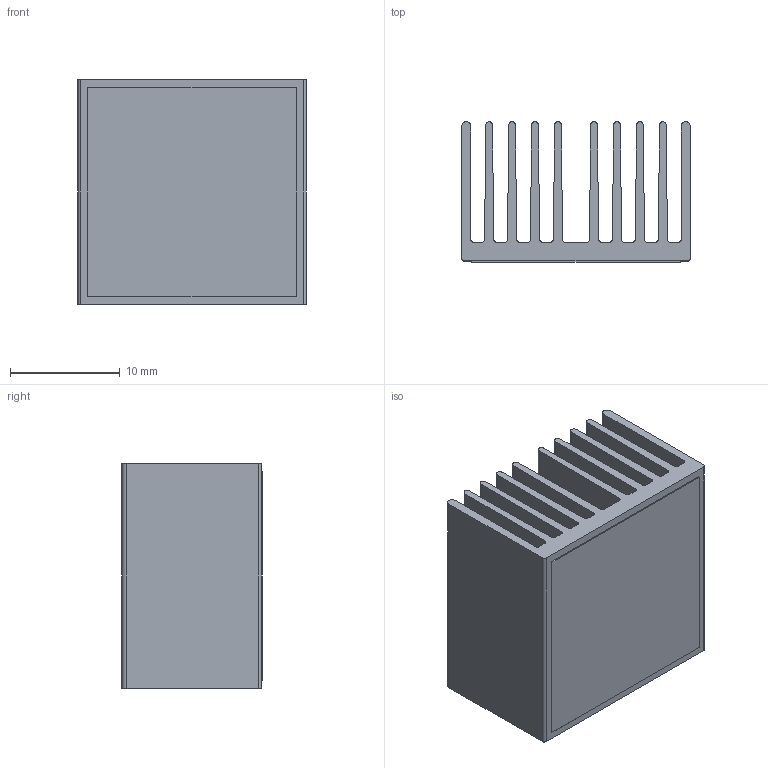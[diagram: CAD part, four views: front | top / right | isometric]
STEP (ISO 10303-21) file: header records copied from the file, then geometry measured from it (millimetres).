
FILE_DESCRIPTION (( 'STEP AP214' ), '1' );
FILE_NAME ('INL21001-13-1.7.STEP', '2023-02-21T16:17:00', ( '' ), ( '' ), 'SwSTEP 2.0', 'SolidWorks 2020', '' );
FILE_SCHEMA (( 'AUTOMOTIVE_DESIGN' ));
Length unit declared in the file: millimetre
Products named in the file (1): INL21001-13-1.7
Bounding box: 20.8 x 12.8 x 20.5 mm (x, y, z)
Volume: 2422 mm3; surface area: 6254.1 mm2
Topology: 2 solids, 2 shells, 68 faces, 192 edges, 128 vertices
Faces by surface type: plane 38, cylinder 30
Entity records: 3007 total; most frequent: DIRECTION 390, CARTESIAN_POINT 389, ORIENTED_EDGE 384, EDGE_CURVE 192, VECTOR 132, LINE 132, AXIS2_PLACEMENT_3D 129, VERTEX_POINT 128
